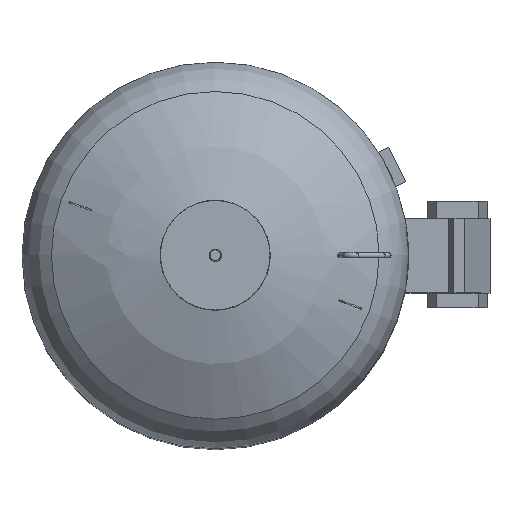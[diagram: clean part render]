
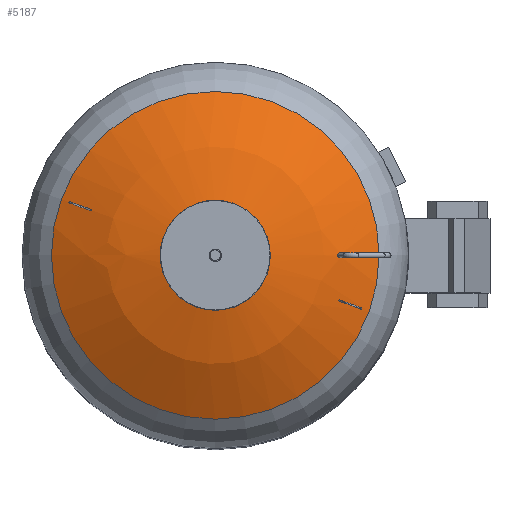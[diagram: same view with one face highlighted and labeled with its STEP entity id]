
A CAD part, top view. The second image highlights one B-rep face of the part: STEP entity #5187.
In plain terms, the highlighted spherical face has radius 967.7 mm.
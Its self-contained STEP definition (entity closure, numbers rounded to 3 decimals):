
#19=SPHERICAL_SURFACE('',#5566,967.7);
#142=FACE_BOUND('',#608,.T.);
#241=B_SPLINE_CURVE_WITH_KNOTS('',3,(#7773,#7774,#7775,#7776,#7777,#7778,
#7779,#7780,#7781,#7782,#7783,#7784,#7785,#7786,#7787,#7788,#7789,#7790),
 .UNSPECIFIED.,.F.,.F.,(4,2,2,2,2,2,2,2,4),(0.,0.302,0.605,
0.906,1.207,1.508,1.81,2.112,
2.414),.UNSPECIFIED.);
#242=B_SPLINE_CURVE_WITH_KNOTS('',3,(#7791,#7792,#7793,#7794,#7795,#7796,
#7797,#7798,#7799,#7800,#7801,#7802,#7803,#7804,#7805,#7806,#7807,#7808),
 .UNSPECIFIED.,.F.,.F.,(4,2,2,2,2,2,2,2,4),(2.414,2.717,
3.019,3.32,3.622,3.923,4.224,
4.526,4.829),.UNSPECIFIED.);
#314=FACE_OUTER_BOUND('',#607,.T.);
#607=EDGE_LOOP('',(#3604,#3605,#3606,#3607,#3608,#3609));
#608=EDGE_LOOP('',(#3610,#3611));
#1733=CIRCLE('',#5564,153.);
#1734=CIRCLE('',#5565,153.);
#1735=CIRCLE('',#5567,967.7);
#1736=CIRCLE('',#5568,508.692);
#1737=CIRCLE('',#5569,508.692);
#1989=VERTEX_POINT('',#7770);
#1990=VERTEX_POINT('',#7772);
#2107=VERTEX_POINT('',#8183);
#2108=VERTEX_POINT('',#8184);
#2109=VERTEX_POINT('',#8189);
#2110=VERTEX_POINT('',#8191);
#2518=EDGE_CURVE('',#1990,#1989,#241,.T.);
#2519=EDGE_CURVE('',#1989,#1990,#242,.T.);
#2687=EDGE_CURVE('',#2107,#2108,#1733,.T.);
#2688=EDGE_CURVE('',#2108,#2107,#1734,.T.);
#2690=EDGE_CURVE('',#2107,#2109,#1735,.T.);
#2691=EDGE_CURVE('',#2110,#2109,#1736,.T.);
#2692=EDGE_CURVE('',#2109,#2110,#1737,.T.);
#3604=ORIENTED_EDGE('',*,*,#2687,.T.);
#3605=ORIENTED_EDGE('',*,*,#2688,.T.);
#3606=ORIENTED_EDGE('',*,*,#2690,.T.);
#3607=ORIENTED_EDGE('',*,*,#2691,.F.);
#3608=ORIENTED_EDGE('',*,*,#2692,.F.);
#3609=ORIENTED_EDGE('',*,*,#2690,.F.);
#3610=ORIENTED_EDGE('',*,*,#2518,.T.);
#3611=ORIENTED_EDGE('',*,*,#2519,.T.);
#5187=ADVANCED_FACE('',(#314,#142),#19,.T.);
#5564=AXIS2_PLACEMENT_3D('',#8185,#6392,#6393);
#5565=AXIS2_PLACEMENT_3D('',#8186,#6394,#6395);
#5566=AXIS2_PLACEMENT_3D('',#8188,#6397,#6398);
#5567=AXIS2_PLACEMENT_3D('',#8190,#6399,#6400);
#5568=AXIS2_PLACEMENT_3D('',#8192,#6401,#6402);
#5569=AXIS2_PLACEMENT_3D('',#8193,#6403,#6404);
#6392=DIRECTION('center_axis',(0.,0.,-1.));
#6393=DIRECTION('ref_axis',(1.,0.,0.));
#6394=DIRECTION('center_axis',(0.,0.,-1.));
#6395=DIRECTION('ref_axis',(1.,0.,0.));
#6397=DIRECTION('center_axis',(0.,0.,1.));
#6398=DIRECTION('ref_axis',(1.,0.,0.));
#6399=DIRECTION('center_axis',(0.,-1.,0.));
#6400=DIRECTION('ref_axis',(-1.,0.,0.));
#6401=DIRECTION('center_axis',(0.,0.,-1.));
#6402=DIRECTION('ref_axis',(1.,0.,0.));
#6403=DIRECTION('center_axis',(0.,0.,-1.));
#6404=DIRECTION('ref_axis',(1.,0.,0.));
#7770=CARTESIAN_POINT('',(387.431,-8.,2715.403));
#7772=CARTESIAN_POINT('',(387.431,8.,2715.403));
#7773=CARTESIAN_POINT('Ctrl Pts',(387.431,8.,2715.403));
#7774=CARTESIAN_POINT('Ctrl Pts',(388.355,8.,2715.));
#7775=CARTESIAN_POINT('Ctrl Pts',(389.34,7.799,2714.569));
#7776=CARTESIAN_POINT('Ctrl Pts',(391.152,6.982,2713.777));
#7777=CARTESIAN_POINT('Ctrl Pts',(391.98,6.365,2713.416));
#7778=CARTESIAN_POINT('Ctrl Pts',(393.284,4.944,2712.846));
#7779=CARTESIAN_POINT('Ctrl Pts',(393.85,4.045,2712.599));
#7780=CARTESIAN_POINT('Ctrl Pts',(394.599,2.075,2712.271));
#7781=CARTESIAN_POINT('Ctrl Pts',(394.784,1.004,2712.19));
#7782=CARTESIAN_POINT('Ctrl Pts',(394.784,-1.004,2712.19));
#7783=CARTESIAN_POINT('Ctrl Pts',(394.599,-2.075,2712.271));
#7784=CARTESIAN_POINT('Ctrl Pts',(393.85,-4.045,2712.599));
#7785=CARTESIAN_POINT('Ctrl Pts',(393.284,-4.944,2712.846));
#7786=CARTESIAN_POINT('Ctrl Pts',(391.98,-6.365,2713.416));
#7787=CARTESIAN_POINT('Ctrl Pts',(391.152,-6.982,2713.777));
#7788=CARTESIAN_POINT('Ctrl Pts',(389.34,-7.799,2714.569));
#7789=CARTESIAN_POINT('Ctrl Pts',(388.355,-8.,2715.));
#7790=CARTESIAN_POINT('Ctrl Pts',(387.431,-8.,2715.403));
#7791=CARTESIAN_POINT('Ctrl Pts',(387.431,-8.,2715.403));
#7792=CARTESIAN_POINT('Ctrl Pts',(386.508,-8.,2715.807));
#7793=CARTESIAN_POINT('Ctrl Pts',(385.523,-7.799,2716.237));
#7794=CARTESIAN_POINT('Ctrl Pts',(383.71,-6.982,2717.029));
#7795=CARTESIAN_POINT('Ctrl Pts',(382.883,-6.365,2717.39));
#7796=CARTESIAN_POINT('Ctrl Pts',(381.578,-4.944,2717.96));
#7797=CARTESIAN_POINT('Ctrl Pts',(381.013,-4.045,2718.207));
#7798=CARTESIAN_POINT('Ctrl Pts',(380.263,-2.075,2718.535));
#7799=CARTESIAN_POINT('Ctrl Pts',(380.079,-1.004,2718.615));
#7800=CARTESIAN_POINT('Ctrl Pts',(380.079,1.004,2718.615));
#7801=CARTESIAN_POINT('Ctrl Pts',(380.263,2.075,2718.535));
#7802=CARTESIAN_POINT('Ctrl Pts',(381.013,4.045,2718.207));
#7803=CARTESIAN_POINT('Ctrl Pts',(381.578,4.944,2717.96));
#7804=CARTESIAN_POINT('Ctrl Pts',(382.883,6.365,2717.39));
#7805=CARTESIAN_POINT('Ctrl Pts',(383.71,6.982,2717.029));
#7806=CARTESIAN_POINT('Ctrl Pts',(385.523,7.799,2716.237));
#7807=CARTESIAN_POINT('Ctrl Pts',(386.508,8.,2715.807));
#7808=CARTESIAN_POINT('Ctrl Pts',(387.431,8.,2715.403));
#8183=CARTESIAN_POINT('',(-153.,0.,2784.209));
#8184=CARTESIAN_POINT('',(153.,0.,2784.209));
#8185=CARTESIAN_POINT('Origin',(0.,0.,2784.209));
#8186=CARTESIAN_POINT('Origin',(0.,0.,2784.209));
#8188=CARTESIAN_POINT('Origin',(0.,0.,1828.681));
#8189=CARTESIAN_POINT('',(-508.692,0.,2651.892));
#8190=CARTESIAN_POINT('Origin',(0.,0.,1828.681));
#8191=CARTESIAN_POINT('',(508.692,0.,2651.892));
#8192=CARTESIAN_POINT('Origin',(0.,0.,2651.892));
#8193=CARTESIAN_POINT('Origin',(0.,0.,2651.892));
